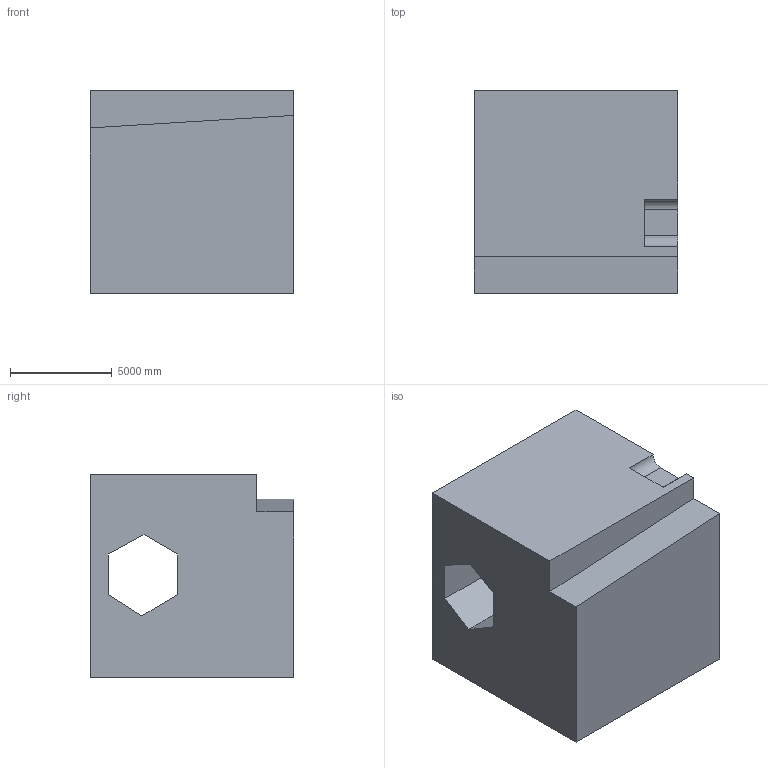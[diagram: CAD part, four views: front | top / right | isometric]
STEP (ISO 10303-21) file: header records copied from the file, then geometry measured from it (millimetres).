
FILE_DESCRIPTION (( 'STEP AP203' ), '1' );
FILE_NAME ('358.STEP', '2022-07-28T14:28:27', ( 'user' ), ( '' ), 'SwSTEP 2.0', 'SolidWorks 2021', '' );
FILE_SCHEMA (( 'CONFIG_CONTROL_DESIGN' ));
Length unit declared in the file: centimetre
Products named in the file (1): 358
Bounding box: 10000 x 10000 x 10000 mm (x, y, z)
Volume: 845591755339.2 mm3; surface area: 693984065.1 mm2
Topology: 1 solids, 1 shells, 21 faces, 57 edges, 38 vertices
Faces by surface type: plane 19, cylinder 2
Entity records: 736 total; most frequent: CARTESIAN_POINT 117, ORIENTED_EDGE 114, DIRECTION 105, EDGE_CURVE 57, LINE 53, VECTOR 53, VERTEX_POINT 38, AXIS2_PLACEMENT_3D 26
